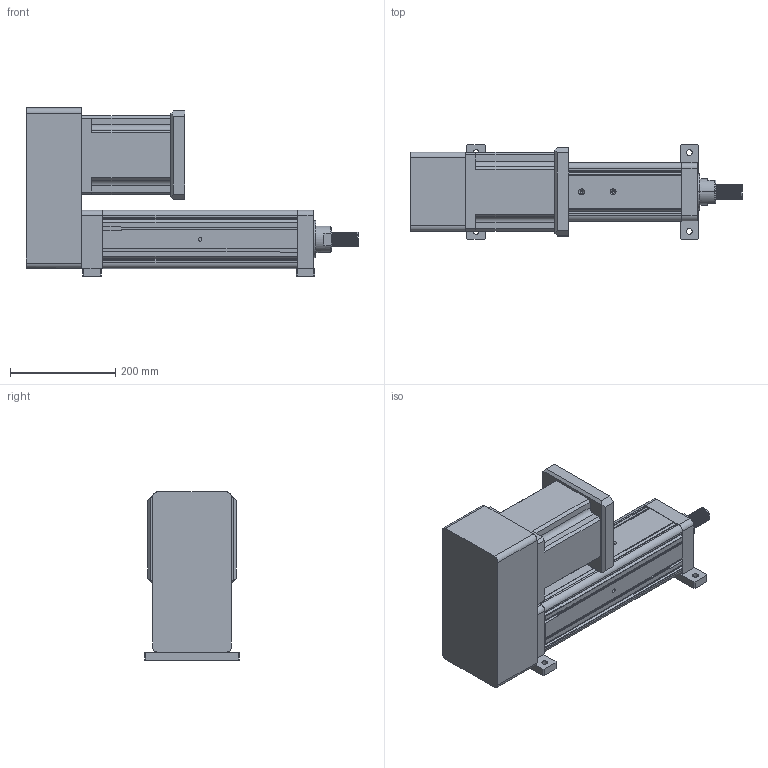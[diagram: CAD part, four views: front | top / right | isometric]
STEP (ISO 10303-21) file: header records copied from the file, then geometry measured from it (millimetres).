
FILE_DESCRIPTION (( 'STEP AP203' ), '1' );
FILE_NAME ('YRJ110-L200-H2K1.STEP', '2020-01-04T06:09:57', ( 'User' ), ( 'China' ), 'SwSTEP 2.0', 'SolidWorks 2016', '' );
FILE_SCHEMA (( 'CONFIG_CONTROL_DESIGN' ));
Length unit declared in the file: millimetre
Products named in the file (7): 095-100俴最倰第; 萇儂碟-110; 142熬厒儂; H2-110-1; H2-110-2; K1-110; YRJ110-L200-H2K1
Assembly tree (6 placements, depth 2):
  YRJ110-L200-H2K1
    095-100俴最倰第
    萇儂碟-110
    142熬厒儂
    H2-110-1
    H2-110-2
    K1-110
Bounding box: 631 x 180 x 320 mm (x, y, z)
Volume: 11534803.8 mm3; surface area: 837414.5 mm2
Topology: 6 solids, 6 shells, 373 faces, 1033 edges, 668 vertices
Faces by surface type: plane 186, cylinder 156, cone 27, bspline 4
Entity records: 20550 total; most frequent: CARTESIAN_POINT 10416, ORIENTED_EDGE 2034, DIRECTION 1879, EDGE_CURVE 1017, VERTEX_POINT 668, LINE 657, VECTOR 657, AXIS2_PLACEMENT_3D 611
